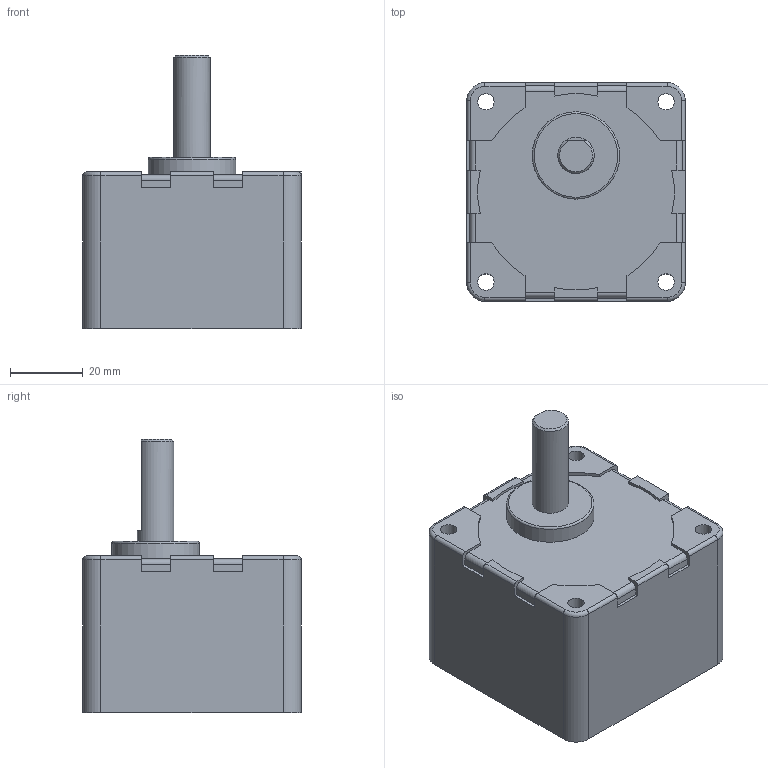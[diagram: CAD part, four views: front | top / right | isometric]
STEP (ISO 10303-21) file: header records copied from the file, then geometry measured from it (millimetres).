
FILE_DESCRIPTION(/* description */ (''),/* implementation_level */ '2;1');
FILE_NAME(/* name */ 'E:\도면작업\2016\0704) 미주향 SG 도면\3D GEAR HEAD\SG6DA150~360.stp',/* time_stamp */ '2016-07-22T14:00:40+09:00',/* author */ ('jy-jung'),/* organization */ (''),/* preprocessor_version */ 'ST-DEVELOPER v15.6',/* originating_system */ 'Autodesk Inventor 2015',/* authorisation */ '');
FILE_SCHEMA (('AUTOMOTIVE_DESIGN { 1 0 10303 214 3 1 1 }'));
Length unit declared in the file: millimetre
Products named in the file (1): SG6DA150~360
Bounding box: 60 x 60 x 75 mm (x, y, z)
Volume: 147353.6 mm3; surface area: 21250.5 mm2
Topology: 1 solids, 1 shells, 99 faces, 268 edges, 175 vertices
Faces by surface type: plane 52, cylinder 39, torus 5, cone 3
Full cylindrical faces by diameter (mm): 4.5 x4, 5.7 x1, 10 x1, 24 x1, 54 x1
Entity records: 3095 total; most frequent: DIRECTION 541, CARTESIAN_POINT 534, ORIENTED_EDGE 512, EDGE_CURVE 256, AXIS2_PLACEMENT_3D 187, VERTEX_POINT 174, LINE 167, VECTOR 167
